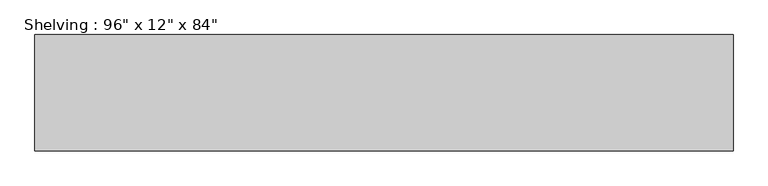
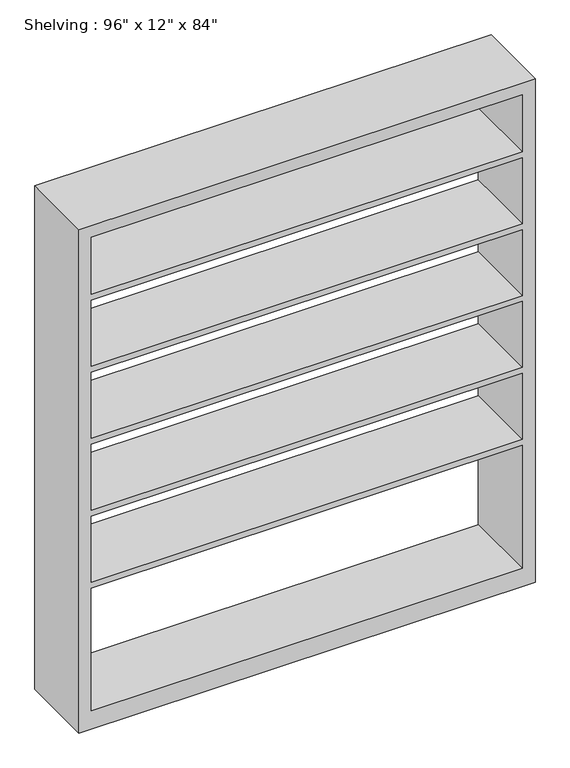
"""IFC4 building model written with IfcOpenShell, lengths in millimetres: furniture geometry."""

from ifc_helpers import new_model, si_unit, frame, origin, place, context, project, spatial, polyline, outline, extrude, source, transform, mapped, element, save


def furniture_6f8441ab(model_context):
    return source(origin(), model_context, "Body", "SweptSolid", [
        extrude(outline(polyline([(0.0, 914.4), (2133.6, 914.4), (2133.6, -914.4), (0.0, -914.4), (0.0, 914.4)]), holes=[polyline([(2082.8, 863.6), (1841.5, 863.6), (1841.5, -863.6), (2082.8, -863.6), (2082.8, 863.6)]), polyline([(76.2, 863.6), (76.2, -863.6), (596.9, -863.6), (596.9, 863.6), (76.2, 863.6)]), polyline([(1231.9, -863.6), (1511.3, -863.6), (1511.3, 863.6), (1231.9, 863.6), (1231.9, -863.6)]), polyline([(1816.1, 863.6), (1536.7, 863.6), (1536.7, -863.6), (1816.1, -863.6), (1816.1, 863.6)]), polyline([(1206.5, 863.6), (927.1, 863.6), (927.1, -863.6), (1206.5, -863.6), (1206.5, 863.6)]), polyline([(901.7, 863.6), (622.3, 863.6), (622.3, -863.6), (901.7, -863.6), (901.7, 863.6)])]), frame((0.0, -457.2, 0.0), z_axis=(0.0, 1.0, 0.0), x_axis=(0.0, 0.0, 1.0)), (0.0, 0.0, 1.0), 304.8),
    ])


if __name__ == "__main__":
    model = new_model("IFC4")
    model_context = context("Model", 3, world=origin())
    ifc_project = project(units=[si_unit("LENGTHUNIT", "METRE", prefix="MILLI")], contexts=[model_context])
    site = spatial("IfcSite", under=ifc_project)
    building = spatial("IfcBuilding", under=site)
    placement = place(None, origin())
    furniture_shape = furniture_6f8441ab(model_context)
    element("IfcFurniture", 1, ObjectType="Shelving : 96\" x 12\" x 84\"", at=placement, inside=building, context=model_context, shape_type="MappedRepresentation", body=[
        mapped(furniture_shape, transform((0.0, 0.0, 0.0), x_axis=(1.0, 0.0, 0.0), y_axis=(0.0, 1.0, 0.0), z_axis=(0.0, 0.0, 1.0))),
    ])
    save(model, "model.ifc")
